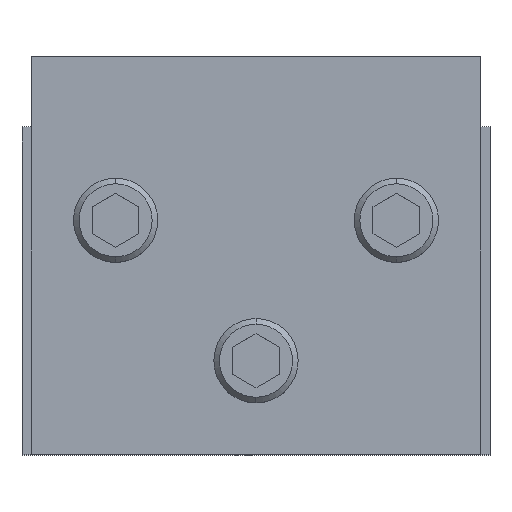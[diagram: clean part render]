
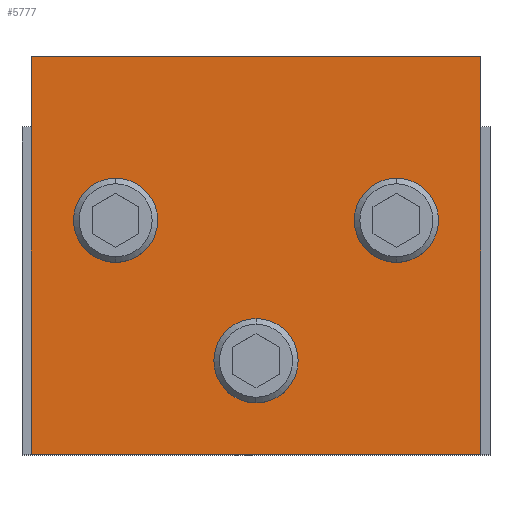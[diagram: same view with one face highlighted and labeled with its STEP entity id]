
A CAD part, top view. The second image highlights one B-rep face of the part: STEP entity #5777.
In plain terms, the highlighted planar face has unit normal (0, 0, 1).
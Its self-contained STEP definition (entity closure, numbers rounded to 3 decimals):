
#5552=VERTEX_POINT(' ',#5553);
#5553=CARTESIAN_POINT('',(48.,85.,120.));
#5554=VERTEX_POINT(' ',#5555);
#5555=CARTESIAN_POINT('',(-48.,85.,120.));
#5556=VERTEX_POINT(' ',#5557);
#5557=CARTESIAN_POINT('',(-48.,0.,120.));
#5558=VERTEX_POINT(' ',#5559);
#5559=CARTESIAN_POINT('',(48.,0.,120.));
#5560=VERTEX_POINT(' ',#5561);
#5561=CARTESIAN_POINT('',(0.,26.5,120.));
#5562=VERTEX_POINT(' ',#5563);
#5563=CARTESIAN_POINT('',(0.,13.5,120.));
#5564=VERTEX_POINT(' ',#5565);
#5565=CARTESIAN_POINT('',(-30.,56.5,120.));
#5566=VERTEX_POINT(' ',#5567);
#5567=CARTESIAN_POINT('',(-30.,43.5,120.));
#5568=VERTEX_POINT(' ',#5569);
#5569=CARTESIAN_POINT('',(30.,56.5,120.));
#5570=VERTEX_POINT(' ',#5571);
#5571=CARTESIAN_POINT('',(30.,43.5,120.));
#5592=LINE('',#5593,#5594);
#5593=CARTESIAN_POINT('',(48.,85.,120.));
#5594=VECTOR('',#5595,1.);
#5595=DIRECTION('',(-1.,0.,0.));
#5596=EDGE_CURVE(' ',#5552,#5554,#5592,.T.);
#5597=LINE('',#5598,#5599);
#5598=CARTESIAN_POINT('',(-48.,85.,120.));
#5599=VECTOR('',#5600,1.);
#5600=DIRECTION('',(0.,-1.,0.));
#5601=EDGE_CURVE(' ',#5554,#5556,#5597,.T.);
#5602=LINE('',#5603,#5604);
#5603=CARTESIAN_POINT('',(-48.,0.,120.));
#5604=VECTOR('',#5605,1.);
#5605=DIRECTION('',(1.,0.,0.));
#5606=EDGE_CURVE(' ',#5556,#5558,#5602,.T.);
#5607=LINE('',#5608,#5609);
#5608=CARTESIAN_POINT('',(48.,0.,120.));
#5609=VECTOR('',#5610,1.);
#5610=DIRECTION('',(0.,1.,0.));
#5611=EDGE_CURVE(' ',#5558,#5552,#5607,.T.);
#5612=CIRCLE('',#5613,6.5);
#5613=AXIS2_PLACEMENT_3D('',#5614,#5615,#5616);
#5614=CARTESIAN_POINT('',(0.,20.,120.));
#5615=DIRECTION('',(0.,0.,-1.));
#5616=DIRECTION('',(-1.,0.,0.));
#5617=EDGE_CURVE(' ',#5560,#5562,#5612,.T.);
#5618=CIRCLE('',#5619,6.5);
#5619=AXIS2_PLACEMENT_3D('',#5620,#5621,#5622);
#5620=CARTESIAN_POINT('',(0.,20.,120.));
#5621=DIRECTION('',(0.,0.,-1.));
#5622=DIRECTION('',(1.,0.,0.));
#5623=EDGE_CURVE(' ',#5562,#5560,#5618,.T.);
#5624=CIRCLE('',#5625,6.5);
#5625=AXIS2_PLACEMENT_3D('',#5626,#5627,#5628);
#5626=CARTESIAN_POINT('',(-30.,50.,120.));
#5627=DIRECTION('',(0.,0.,-1.));
#5628=DIRECTION('',(-1.,0.,0.));
#5629=EDGE_CURVE(' ',#5564,#5566,#5624,.T.);
#5630=CIRCLE('',#5631,6.5);
#5631=AXIS2_PLACEMENT_3D('',#5632,#5633,#5634);
#5632=CARTESIAN_POINT('',(-30.,50.,120.));
#5633=DIRECTION('',(0.,0.,-1.));
#5634=DIRECTION('',(1.,0.,0.));
#5635=EDGE_CURVE(' ',#5566,#5564,#5630,.T.);
#5636=CIRCLE('',#5637,6.5);
#5637=AXIS2_PLACEMENT_3D('',#5638,#5639,#5640);
#5638=CARTESIAN_POINT('',(30.,50.,120.));
#5639=DIRECTION('',(0.,0.,-1.));
#5640=DIRECTION('',(-1.,0.,0.));
#5641=EDGE_CURVE(' ',#5568,#5570,#5636,.T.);
#5642=CIRCLE('',#5643,6.5);
#5643=AXIS2_PLACEMENT_3D('',#5644,#5645,#5646);
#5644=CARTESIAN_POINT('',(30.,50.,120.));
#5645=DIRECTION('',(0.,0.,-1.));
#5646=DIRECTION('',(1.,0.,0.));
#5647=EDGE_CURVE(' ',#5570,#5568,#5642,.T.);
#5754=ORIENTED_EDGE('',*,*,#5596,.T.);
#5755=ORIENTED_EDGE('',*,*,#5601,.T.);
#5756=ORIENTED_EDGE('',*,*,#5606,.T.);
#5757=ORIENTED_EDGE('',*,*,#5611,.T.);
#5758=EDGE_LOOP('',(#5754,#5755,#5756,#5757));
#5759=FACE_OUTER_BOUND('',#5758,.T.);
#5760=ORIENTED_EDGE('',*,*,#5617,.T.);
#5761=ORIENTED_EDGE('',*,*,#5623,.T.);
#5762=EDGE_LOOP('',(#5760,#5761));
#5763=FACE_BOUND('',#5762,.T.);
#5764=ORIENTED_EDGE('',*,*,#5629,.T.);
#5765=ORIENTED_EDGE('',*,*,#5635,.T.);
#5766=EDGE_LOOP('',(#5764,#5765));
#5767=FACE_BOUND('',#5766,.T.);
#5768=ORIENTED_EDGE('',*,*,#5641,.T.);
#5769=ORIENTED_EDGE('',*,*,#5647,.T.);
#5770=EDGE_LOOP('',(#5768,#5769));
#5771=FACE_BOUND('',#5770,.T.);
#5772=PLANE('',#5773);
#5773=AXIS2_PLACEMENT_3D('',#5774,#5775,#5776);
#5774=CARTESIAN_POINT('',(48.,85.,120.));
#5775=DIRECTION('',(0.,0.,1.));
#5776=DIRECTION('',(1.,0.,0.));
#5777=ADVANCED_FACE('',(#5759,#5763,#5767,#5771),#5772,.T.);
